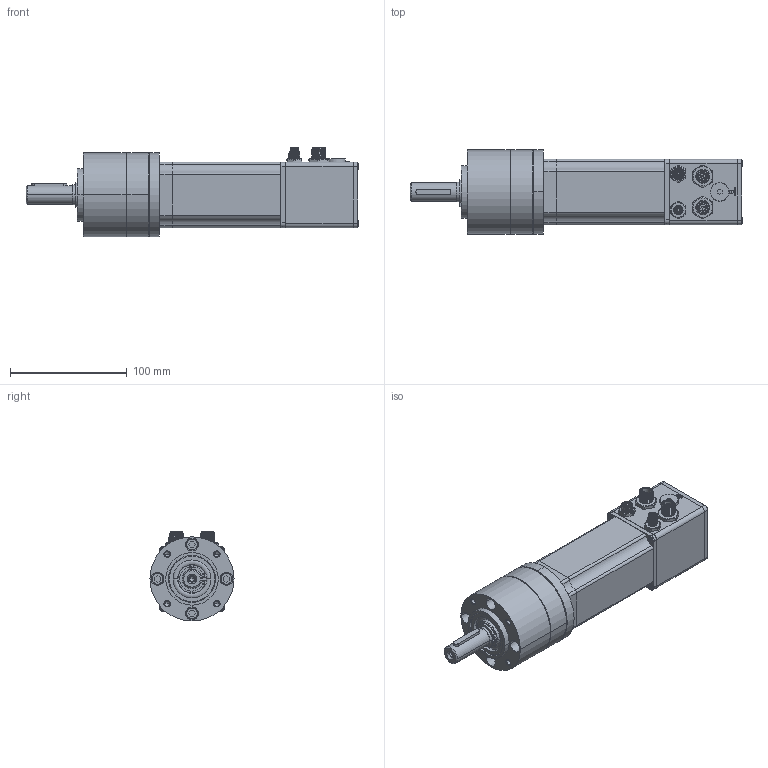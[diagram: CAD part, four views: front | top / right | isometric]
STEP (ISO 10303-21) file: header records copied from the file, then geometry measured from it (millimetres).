
FILE_DESCRIPTION (( 'STEP AP214' ), '1' );
FILE_NAME ('IDX56L_PM72 1 étage.STEP', '2020-02-14T14:10:41', ( '' ), ( '' ), 'SwSTEP 2.0', 'SolidWorks 2018', '' );
FILE_SCHEMA (( 'AUTOMOTIVE_DESIGN' ));
Length unit declared in the file: millimetre
Products named in the file (5): IDX56L_PM72 1 étage; Vis_CHC_2__Vis CHC M5 x 8; PM72-1etage; 6576738_01_Adapt IDX56L_PM72; B7B8186C2EA7
Assembly tree (7 placements, depth 2):
  IDX56L_PM72 1 étage
    B7B8186C2EA7
    PM72-1etage
    6576738_01_Adapt IDX56L_PM72
    Vis_CHC_2__Vis CHC M5 x 8  x4
Bounding box: 284.3 x 72 x 77 mm (x, y, z)
Volume: 550961.6 mm3; surface area: 188778.7 mm2
Topology: 55 solids, 91 shells, 2636 faces, 6309 edges, 3936 vertices
Faces by surface type: cylinder 877, cone 789, plane 784, bspline 110, torus 76
Entity records: 107492 total; most frequent: CARTESIAN_POINT 17035, DIRECTION 13969, ORIENTED_EDGE 12314, EDGE_CURVE 6175, AXIS2_PLACEMENT_3D 5453, VERTEX_POINT 3864, VECTOR 3063, LINE 3063
